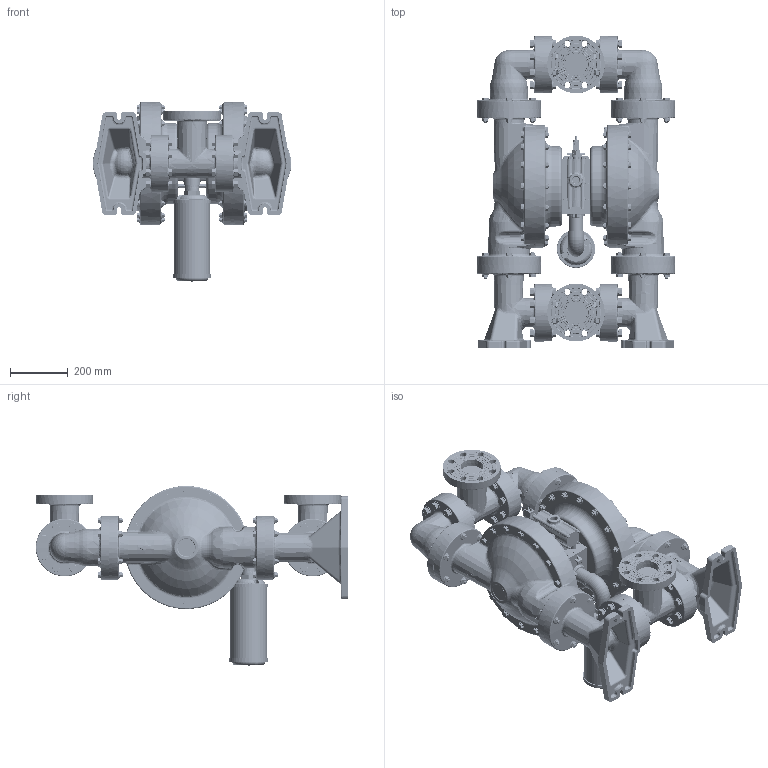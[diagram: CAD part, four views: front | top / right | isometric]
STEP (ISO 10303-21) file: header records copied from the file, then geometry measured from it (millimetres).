
FILE_DESCRIPTION(/* description */ (''),/* implementation_level */ '2;1');
FILE_NAME(/* name */ 'PE30P-FXX-XXX-AXX_A.stp',/* time_stamp */ '2018-03-30T13:12:40-04:00',/* author */ (''),/* organization */ (''),/* preprocessor_version */ 'ST-DEVELOPER v14',/* originating_system */ 'SIEMENS PLM Software NX 8.0',/* authorisation */ '');
FILE_SCHEMA (('CONFIG_CONTROL_DESIGN'));
Length unit declared in the file: inch
Products named in the file (1): PE30P-FXX-XXX-AXX
Bounding box: 689.44 x 1084.63 x 624.73 mm (x, y, z)
Volume: 85621693.8 mm3; surface area: 3307795.8 mm2
Topology: 5 solids, 5 shells, 9468 faces, 23842 edges, 14988 vertices
Faces by surface type: plane 5161, cone 1882, cylinder 1235, bspline 682, torus 244, extrusion 154, sphere 110
Full cylindrical faces by diameter (mm): 17 x1, 24.3 x8, 26 x14, 30.3 x32, 200.025 x4
Entity records: 401263 total; most frequent: CARTESIAN_POINT 189769, ORIENTED_EDGE 47422, DIRECTION 38551, EDGE_CURVE 23711, VERTEX_POINT 14942, AXIS2_PLACEMENT_3D 14137, VECTOR 10277, EDGE_LOOP 10201
